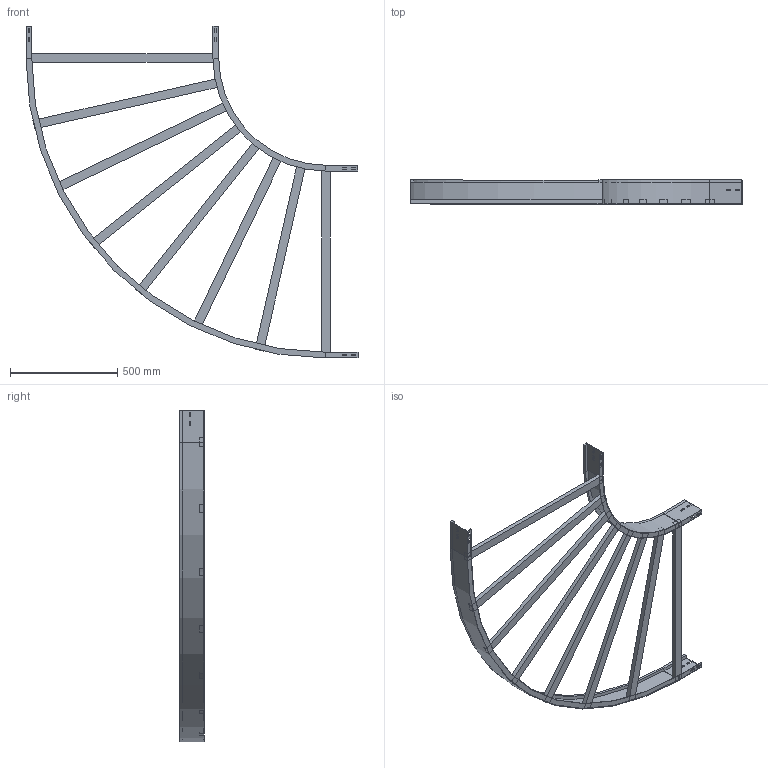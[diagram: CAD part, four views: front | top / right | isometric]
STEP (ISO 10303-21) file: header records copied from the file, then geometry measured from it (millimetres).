
FILE_DESCRIPTION (( 'STEP AP214' ), '1' );
FILE_NAME ('10B5J900.step', '2025-02-21T15:24:24', ( '' ), ( '' ), 'SwSTEP 2.0', 'SolidWorks 2023', '' );
FILE_SCHEMA (( 'AUTOMOTIVE_DESIGN' ));
Length unit declared in the file: millimetre
Products named in the file (4): A2_LONGH.ESTERNO 90°_H112.5_R500+900; 10B5J900; A2_LONGH.INTERNO 90°_H112.5_R500; TRAVERSINO_900
Assembly tree (10 placements, depth 2):
  10B5J900
    A2_LONGH.INTERNO 90°_H112.5_R500
    A2_LONGH.ESTERNO 90°_H112.5_R500+900
    TRAVERSINO_900  x8
Bounding box: 1550 x 112.5 x 1550 mm (x, y, z)
Volume: 7475119.6 mm3; surface area: 1993867.5 mm2
Topology: 10 solids, 10 shells, 164 faces, 400 edges, 256 vertices
Faces by surface type: plane 156, cylinder 8
Entity records: 3861 total; most frequent: CARTESIAN_POINT 651, ORIENTED_EDGE 632, DIRECTION 602, EDGE_CURVE 316, LINE 300, VECTOR 300, VERTEX_POINT 200, EDGE_LOOP 154
